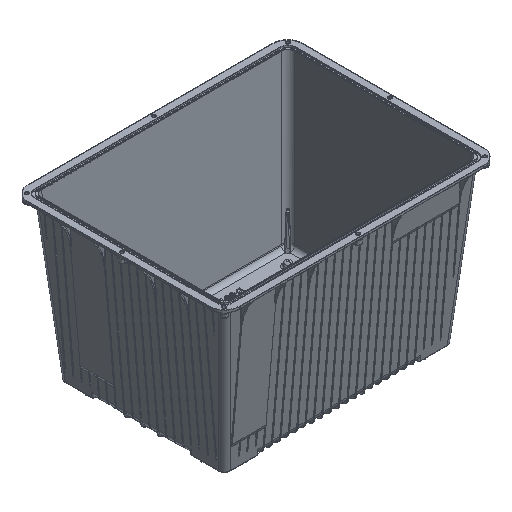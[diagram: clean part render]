
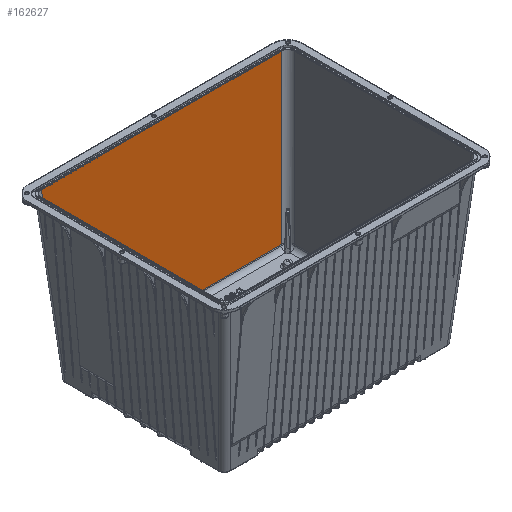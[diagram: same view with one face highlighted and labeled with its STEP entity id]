
A CAD part, isometric view. The second image highlights one B-rep face of the part: STEP entity #162627.
In plain terms, the highlighted planar face has unit normal (0, -0.996, 0.087).
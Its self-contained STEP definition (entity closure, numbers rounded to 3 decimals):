
#18154=CARTESIAN_POINT('',(20.519,-317.952,
1271.232));
#18159=DIRECTION('',(0.087,-0.087,-0.992));
#18160=VECTOR('',#18159,341.256);
#18161=CARTESIAN_POINT('',(-264.261,-288.289,
1610.28));
#18162=LINE('',#18161,#18160);
#18163=DIRECTION('',(0.087,0.087,0.992));
#18164=VECTOR('',#18163,341.256);
#18165=CARTESIAN_POINT('',(234.63,-317.92,
1271.606));
#18166=LINE('',#18165,#18164);
#18167=DIRECTION('',(1.,0.,0.002));
#18168=VECTOR('',#18167,214.112);
#18169=CARTESIAN_POINT('',(20.519,-317.952,
1271.232));
#18170=LINE('',#18169,#18168);
#18171=DIRECTION('',(0.258,-0.084,-0.962));
#18172=VECTOR('',#18171,0.913);
#18173=CARTESIAN_POINT('',(20.284,-317.875,
1272.111));
#18174=LINE('',#18173,#18172);
#18175=DIRECTION('',(0.258,0.084,0.962));
#18176=VECTOR('',#18175,0.913);
#18177=CARTESIAN_POINT('',(-20.519,-317.952,
1271.232));
#18178=LINE('',#18177,#18176);
#18179=DIRECTION('',(1.,0.,-0.002));
#18180=VECTOR('',#18179,214.112);
#18181=CARTESIAN_POINT('',(-234.63,-317.92,
1271.606));
#18182=LINE('',#18181,#18180);
#18355=CARTESIAN_POINT('',(234.63,-317.92,
1271.606));
#18381=DIRECTION('',(1.,0.,0.));
#18382=VECTOR('',#18381,528.523);
#18383=CARTESIAN_POINT('',(-264.261,-288.289,
1610.28));
#18384=LINE('',#18383,#18382);
#101306=CARTESIAN_POINT('',(20.284,-317.875,
1272.111));
#101307=CARTESIAN_POINT('',(20.123,-317.823,
1272.712));
#101308=CARTESIAN_POINT('',(19.746,-317.719,
1273.9));
#101309=CARTESIAN_POINT('',(19.043,-317.57,
1275.6));
#101310=CARTESIAN_POINT('',(18.115,-317.417,
1277.348));
#101311=CARTESIAN_POINT('',(17.225,-317.297,
1278.727));
#101312=CARTESIAN_POINT('',(16.104,-317.168,
1280.193));
#101313=CARTESIAN_POINT('',(14.939,-317.056,
1281.473));
#101314=CARTESIAN_POINT('',(13.527,-316.943,
1282.773));
#101315=CARTESIAN_POINT('',(12.142,-316.849,
1283.838));
#101316=CARTESIAN_POINT('',(10.553,-316.76,
1284.86));
#101317=CARTESIAN_POINT('',(8.981,-316.688,
1285.686));
#101318=CARTESIAN_POINT('',(7.296,-316.626,
1286.396));
#101319=CARTESIAN_POINT('',(5.526,-316.576,
1286.961));
#101320=CARTESIAN_POINT('',(3.659,-316.54,
1287.378));
#101321=CARTESIAN_POINT('',(1.832,-316.519,
1287.621));
#101322=CARTESIAN_POINT('',(-0.046,-316.511,
1287.705));
#101323=CARTESIAN_POINT('',(-1.932,-316.519,
1287.612));
#101324=CARTESIAN_POINT('',(-3.795,-316.542,
1287.355));
#101325=CARTESIAN_POINT('',(-5.705,-316.58,
1286.914));
#101326=CARTESIAN_POINT('',(-7.542,-316.634,
1286.306));
#101327=CARTESIAN_POINT('',(-9.282,-316.7,
1285.545));
#101328=CARTESIAN_POINT('',(-11.001,-316.783,
1284.599));
#101329=CARTESIAN_POINT('',(-12.725,-316.886,
1283.421));
#101330=CARTESIAN_POINT('',(-14.258,-316.999,
1282.134));
#101331=CARTESIAN_POINT('',(-15.598,-317.117,
1280.781));
#101332=CARTESIAN_POINT('',(-16.846,-317.25,
1279.262));
#101333=CARTESIAN_POINT('',(-17.932,-317.389,
1277.666));
#101334=CARTESIAN_POINT('',(-18.961,-317.554,
1275.785));
#101335=CARTESIAN_POINT('',(-19.741,-317.717,
1273.926));
#101336=CARTESIAN_POINT('',(-20.123,-317.823,
1272.711));
#101337=CARTESIAN_POINT('',(-20.284,-317.875,
1272.111));
#113788=CARTESIAN_POINT('',(-20.519,-317.952,
1271.232));
#113789=CARTESIAN_POINT('',(-20.284,-317.875,
1272.111));
#113790=VERTEX_POINT('',#113788);
#113791=VERTEX_POINT('',#113789);
#116367=VERTEX_POINT('',#18154);
#116507=VERTEX_POINT('',#18355);
#119008=CARTESIAN_POINT('',(-264.261,-288.289,
1610.28));
#119010=VERTEX_POINT('',#119008);
#121195=CARTESIAN_POINT('',(20.284,-317.875,
1272.111));
#121196=VERTEX_POINT('',#121195);
#123202=CARTESIAN_POINT('',(264.261,-288.289,
1610.28));
#123203=VERTEX_POINT('',#123202);
#128404=CARTESIAN_POINT('',(-234.63,-317.92,
1271.606));
#128405=VERTEX_POINT('',#128404);
#162606=CARTESIAN_POINT('',(278.79,-288.203,1611.274));
#162607=DIRECTION('',(0.,0.996,-0.087));
#162608=DIRECTION('',(0.,0.087,0.996));
#162609=AXIS2_PLACEMENT_3D('',#162606,#162607,#162608);
#162610=PLANE('',#162609);
#162612=ORIENTED_EDGE('',*,*,#162611,.F.);
#162614=ORIENTED_EDGE('',*,*,#162613,.T.);
#162616=ORIENTED_EDGE('',*,*,#162615,.F.);
#162617=ORIENTED_EDGE('',*,*,#162599,.F.);
#162619=ORIENTED_EDGE('',*,*,#162618,.F.);
#162621=ORIENTED_EDGE('',*,*,#162620,.T.);
#162623=ORIENTED_EDGE('',*,*,#162622,.F.);
#162624=ORIENTED_EDGE('',*,*,#160406,.F.);
#162625=EDGE_LOOP('',(#162612,#162614,#162616,#162617,#162619,#162621,#162623,
#162624));
#162626=FACE_OUTER_BOUND('',#162625,.F.);
#162627=ADVANCED_FACE('',(#162626),#162610,.F.);
#101338=B_SPLINE_CURVE_WITH_KNOTS('',3,(#101306,#101307,#101308,#101309,#101310,
#101311,#101312,#101313,#101314,#101315,#101316,#101317,#101318,#101319,#101320,
#101321,#101322,#101323,#101324,#101325,#101326,#101327,#101328,#101329,#101330,
#101331,#101332,#101333,#101334,#101335,#101336,#101337),.UNSPECIFIED.,.F.,.F.,(
4,1,1,1,1,1,1,1,1,1,1,1,1,1,1,1,1,1,1,1,1,1,1,1,1,1,1,1,1,4),(0.,
0.034,0.069,0.103,0.138,
0.172,0.207,0.241,0.276,
0.31,0.345,0.379,0.414,
0.448,0.483,0.517,0.552,
0.586,0.621,0.655,0.69,
0.724,0.759,0.793,0.828,
0.862,0.897,0.931,0.966,1.),
.UNSPECIFIED.);
#160406=EDGE_CURVE('',#128405,#113790,#18182,.T.);
#162599=EDGE_CURVE('',#116367,#116507,#18170,.T.);
#162611=EDGE_CURVE('',#119010,#128405,#18162,.T.);
#162613=EDGE_CURVE('',#119010,#123203,#18384,.T.);
#162615=EDGE_CURVE('',#116507,#123203,#18166,.T.);
#162618=EDGE_CURVE('',#121196,#116367,#18174,.T.);
#162620=EDGE_CURVE('',#121196,#113791,#101338,.T.);
#162622=EDGE_CURVE('',#113790,#113791,#18178,.T.);
